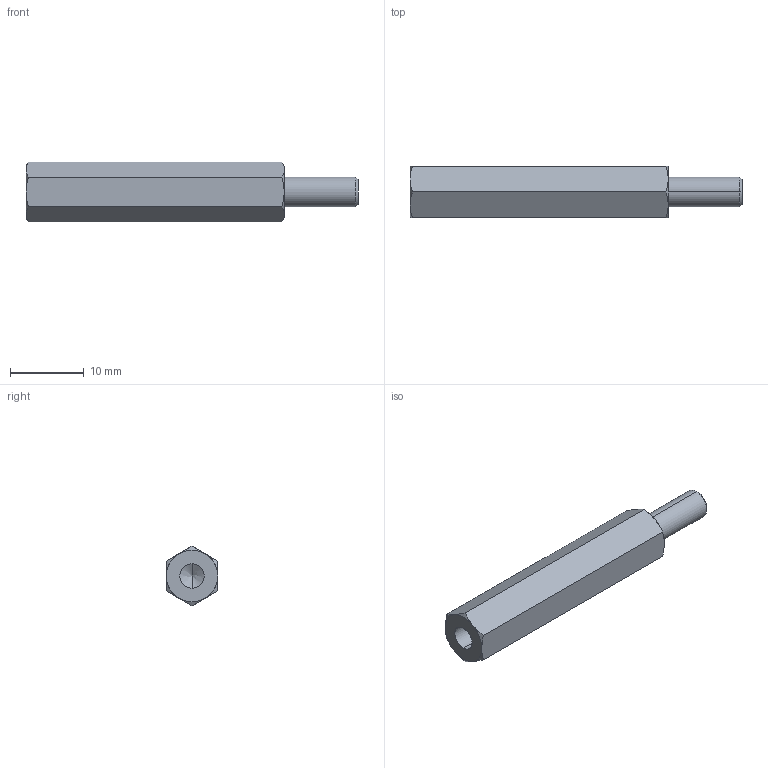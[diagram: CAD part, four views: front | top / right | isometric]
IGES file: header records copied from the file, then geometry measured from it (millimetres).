
Start section: SolidWorks IGES file using analytic representation for surfaces
Global section: file name: C:\Users\render1\Desktop\P0185_IGES\P0185.04-35.igs; native system: SolidWorks 2009; preprocessor: SolidWorks 2009; author: render1; date: 130627.112143; units: millimetre
Bounding box: 45 x 7 x 8.08 mm (x, y, z)
Surface area: 1157.5 mm2 (no closed solid volume)
Topology: 0 solids, 0 shells, 29 faces, 320 edges, 318 vertices
Faces by surface type: revolution 20, bspline 9
